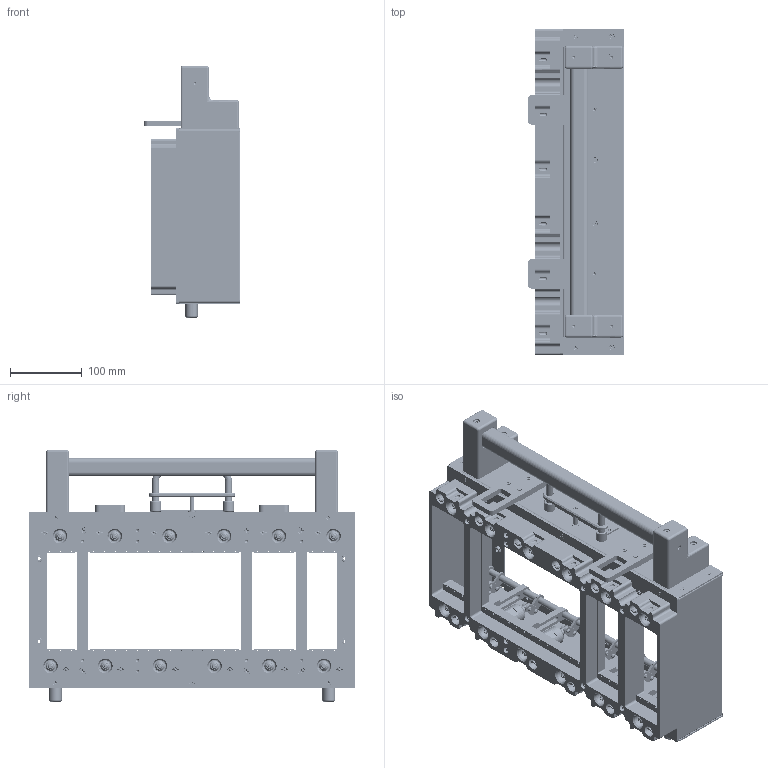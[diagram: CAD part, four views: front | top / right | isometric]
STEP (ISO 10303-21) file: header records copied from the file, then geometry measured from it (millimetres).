
FILE_DESCRIPTION(/* description */ (''),/* implementation_level */ '2;1');
FILE_NAME(/* name */ 'F:\CAD\CAD COMPLETE\web site project\ITAs\40-200260-03-RevH-STP.stp',/* time_stamp */ '2015-02-02T10:28:59+00:00',/* author */ ('davecooper'),/* organization */ (''),/* preprocessor_version */ 'ST-DEVELOPER v15.2',/* originating_system */ 'Autodesk Inventor 2014',/* authorisation */ '');
FILE_SCHEMA (('AUTOMOTIVE_DESIGN { 1 0 10303 214 3 1 1 }'));
Products named in the file (1): 40-200260-03-CU
Bounding box: 135.06 x 454.66 x 351.15 mm (x, y, z)
Surface area: 1155734.8 mm2 (no closed solid volume)
Topology: 0 solids, 491 shells, 6757 faces, 15364 edges, 9980 vertices
Faces by surface type: plane 3595, cylinder 2021, cone 556, bspline 367, torus 110, sphere 108
Full cylindrical faces by diameter (mm): 0.005 x53, 0.051 x12, 1.524 x12, 1.587 x32, 1.702 x52, 2.108 x12, 2.159 x64, 2.286 x12, 2.642 x42, 2.845 x12, 2.997 x8, 3.048 x24, 3.175 x16, 3.2 x36, 3.213 x52, 3.302 x2, 3.327 x24, 3.505 x50, 3.81 x19, 3.962 x18, 4.166 x24, 4.496 x8, 4.75 x12, 4.762 x6, 4.775 x2, 4.826 x38, 5.055 x2, 5.08 x30, 5.105 x93, 5.156 x8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
Entity records: 240994 total; most frequent: CARTESIAN_POINT 93483, DIRECTION 29196, ORIENTED_EDGE 25346, EDGE_CURVE 12673, AXIS2_PLACEMENT_3D 11647, EDGE_LOOP 10128, VERTEX_POINT 9347, ADVANCED_FACE 6745
